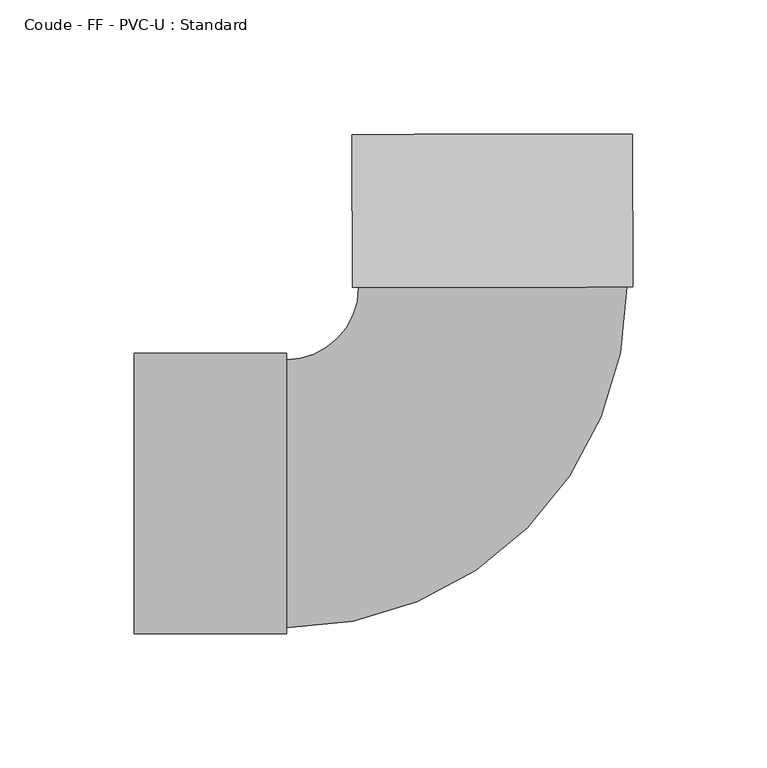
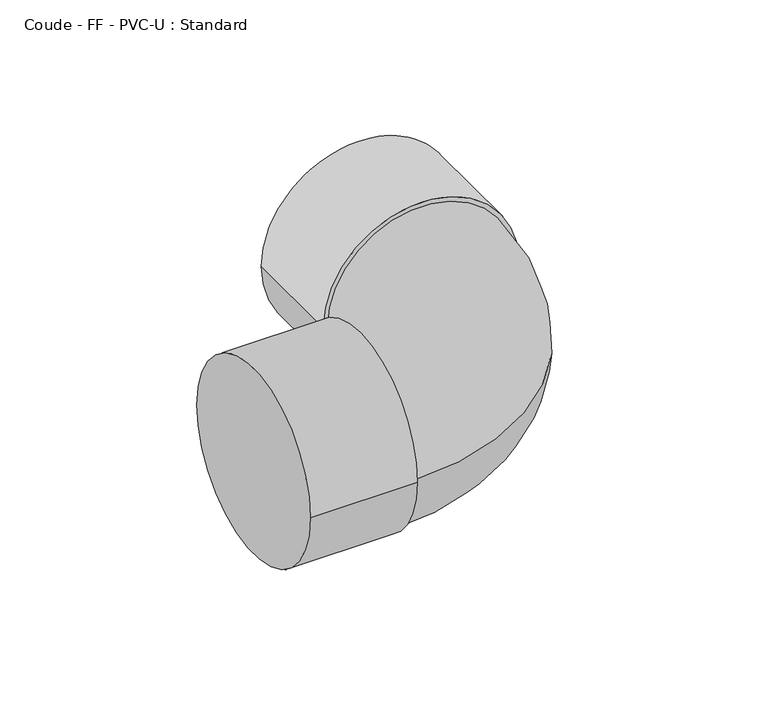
"""IFC4 building model written with IfcOpenShell, lengths in millimetres: pipe fitting geometry, Coude - FF - PVC-U : Standard."""

from ifc_helpers import new_model, si_unit, point, frame, origin, place, context, project, spatial, circle_curve, ellipse_curve, trimmed, source, transform, mapped, element, save
from ifc_brep_helpers import plane_surface, cylinder_surface, revolved_surface, advanced_brep


def coude_ff_pvc_u_standard_655a296a(model_context):
    return source(origin(), model_context, "Body", "AdvancedBrep", [
        advanced_brep(
        [(-134.0, -52.3, 0.0), (-134.0, 52.3, 0.0), (-77.0, -52.3, 0.0), (-77.0, 52.3, 0.0), (-77.0, -50.0, 0.0), (-77.0, 50.0, 0.0), (-50.1489993, 76.903042, 0.0), (49.8508132, 77.0966693, 0.0), (52.1508089, 77.1011228, 0.0), (-52.448995, 76.8985886, 0.0), (52.0404413, 134.1010159, 0.0), (-52.5593626, 133.8984817, 0.0)],
        [
            (0, 1, circle_curve(frame((-134.0, 0.0, 0.0), z_axis=(-1.0, 0.0, 0.0), x_axis=(0.0, 1.0, 0.0)), 52.3)),
            (1, 0, circle_curve(frame((-134.0, 0.0, 0.0), z_axis=(-1.0, 0.0, 0.0), x_axis=(0.0, 1.0, 0.0)), 52.3)),
            (2, 3, circle_curve(frame((-77.0, 0.0, 0.0), z_axis=(1.0, 0.0, 0.0), x_axis=(0.0, 1.0, 0.0)), 52.3)),
            (3, 2, circle_curve(frame((-77.0, 0.0, 0.0), z_axis=(1.0, 0.0, 0.0), x_axis=(0.0, 1.0, 0.0)), 52.3)),
            (4, 5, circle_curve(frame((-77.0, 0.0, 0.0), z_axis=(-1.0, 0.0, 0.0), x_axis=(0.0, 1.0, 0.0)), 50.0)),
            (5, 4, circle_curve(frame((-77.0, 0.0, 0.0), z_axis=(-1.0, 0.0, 0.0), x_axis=(0.0, 1.0, 0.0)), 50.0)),
            (0, 2),
            (3, 1),
            (6, 5, circle_curve(frame((-77.0, 76.851051, 0.0), z_axis=(0.0, 0.0, -1.0), x_axis=(0.0, -1.0, 0.0)), 26.851051)),
            (4, 7, circle_curve(frame((-77.0, 76.851051, 0.0), z_axis=(0.0, 0.0, 1.0), x_axis=(0.0, -1.0, 0.0)), 126.851051)),
            (7, 6, circle_curve(frame((-0.1490931, 76.9998557, 0.0), z_axis=(0.001936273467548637, -0.9999981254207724, 0.0), x_axis=(-0.9999981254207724, -0.001936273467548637, 0.0)), 50.0)),
            (6, 7, circle_curve(frame((-0.1490931, 76.9998557, 0.0), z_axis=(0.001936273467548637, -0.9999981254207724, 0.0), x_axis=(-0.9999981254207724, -0.001936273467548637, 0.0)), 50.0)),
            (8, 9, circle_curve(frame((-0.1490931, 76.9998557, 0.0), z_axis=(0.0019362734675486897, -0.9999981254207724, 0.0), x_axis=(-0.9999981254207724, -0.0019362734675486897, 0.0)), 52.3)),
            (9, 8, circle_curve(frame((-0.1490931, 76.9998557, 0.0), z_axis=(0.0019362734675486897, -0.9999981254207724, 0.0), x_axis=(-0.9999981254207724, -0.0019362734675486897, 0.0)), 52.3)),
            (10, 11, circle_curve(frame((-0.2594606, 133.9997488, 0.0), z_axis=(-0.0019362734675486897, 0.9999981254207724, 0.0), x_axis=(-0.9999981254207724, -0.0019362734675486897, 0.0)), 52.3)),
            (11, 10, circle_curve(frame((-0.2594606, 133.9997488, 0.0), z_axis=(-0.0019362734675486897, 0.9999981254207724, 0.0), x_axis=(-0.9999981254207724, -0.0019362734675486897, 0.0)), 52.3)),
            (8, 10),
            (11, 9),
        ],
        [
            plane_surface(frame((-134.0, 0.0, 0.0), z_axis=(-1.0, 0.0, 0.0), x_axis=(0.0, 0.0, 1.0))),
            plane_surface(frame((-77.0, 0.0, 0.0), z_axis=(1.0, 0.0, 0.0), x_axis=(0.0, 0.0, 1.0))),
            cylinder_surface(frame((-134.0, 0.0, 0.0), z_axis=(-1.0, 0.0, 0.0), x_axis=(0.0, 1.0, 0.0)), 52.3),
            revolved_surface(trimmed(ellipse_curve(frame((-77.0, 0.0, 0.0), z_axis=(-1.0, 0.0, 0.0), x_axis=(0.0, 1.0, 0.0)), 50.0, 50.0), [point((-77.0, -50.0, 0.0))], [point((-77.0, 50.0, 0.0))], True, "CARTESIAN"), (-77.0, 76.851051, 0.0), (0.0, 0.0, 1.0)),
            revolved_surface(trimmed(ellipse_curve(frame((-77.0, 0.0, 0.0), z_axis=(-1.0, 0.0, 0.0), x_axis=(0.0, 1.0, 0.0)), 50.0, 50.0), [point((-77.0, 50.0, 0.0))], [point((-77.0, -50.0, 0.0))], True, "CARTESIAN"), (-77.0, 76.851051, 0.0), (0.0, 0.0, 1.0)),
            plane_surface(frame((-0.1490931, 76.9998557, 0.0), z_axis=(0.0019362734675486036, -0.9999981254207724, 0.0), x_axis=(0.0, 0.0, 1.0))),
            plane_surface(frame((-0.2594606, 133.9997488, 0.0), z_axis=(-0.0019362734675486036, 0.9999981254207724, 0.0), x_axis=(0.0, 0.0, 1.0))),
            cylinder_surface(frame((-0.1490931, 76.9998557, 0.0), z_axis=(0.0019362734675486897, -0.9999981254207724, 0.0), x_axis=(-0.9999981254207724, -0.0019362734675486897, 0.0)), 52.3),
        ],
        [
            (0, [[1, 2]]),
            (1, [[3, 4], [5, 6]]),
            (2, [[-1, 7, -4, 8]]),
            (2, [[-2, -8, -3, -7]]),
            (3, [[9, -5, 10, 11]]),
            (4, [[-9, 12, -10, -6]]),
            (5, [[13, 14], [-11, -12]]),
            (6, [[15, 16]]),
            (7, [[-13, 17, -16, 18]]),
            (7, [[-14, -18, -15, -17]]),
        ],
    ),
    ])


if __name__ == "__main__":
    model = new_model("IFC4")
    model_context = context("Model", 3, world=origin())
    ifc_project = project(units=[si_unit("LENGTHUNIT", "METRE", prefix="MILLI")], contexts=[model_context])
    site = spatial("IfcSite", under=ifc_project)
    building = spatial("IfcBuilding", under=site)
    placement = place(None, origin())
    coude_ff_pvc_u_standard_shape = coude_ff_pvc_u_standard_655a296a(model_context)
    element("IfcPipeFitting", 1, ObjectType="Coude - FF - PVC-U : Standard", at=placement, inside=building, context=model_context, shape_type="MappedRepresentation", body=[
        mapped(coude_ff_pvc_u_standard_shape, transform((0.0, 0.0, 0.0), x_axis=(1.0, 0.0, 0.0), y_axis=(0.0, 1.0, 0.0), z_axis=(0.0, 0.0, 1.0))),
    ])
    save(model, "model.ifc")
